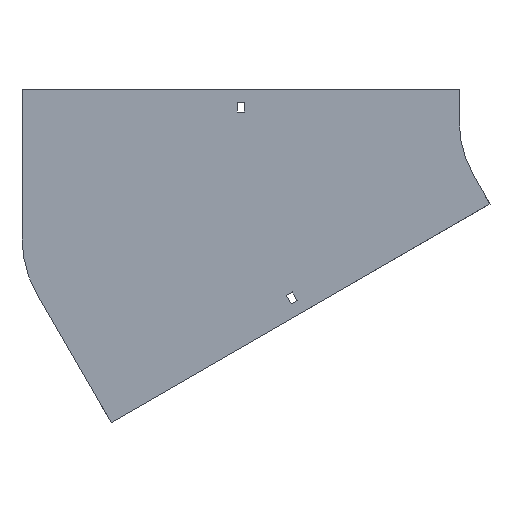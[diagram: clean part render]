
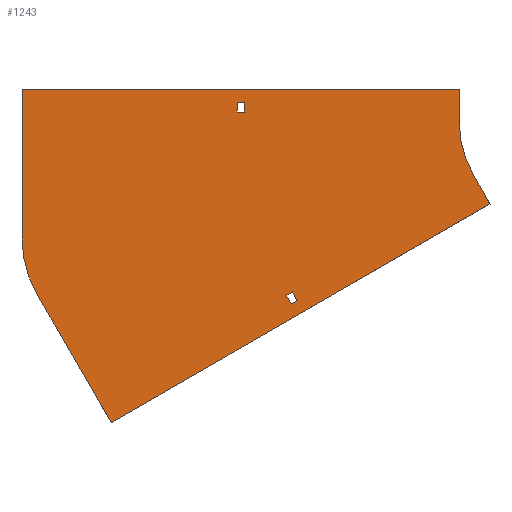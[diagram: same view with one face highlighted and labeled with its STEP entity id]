
A CAD part, front view. The second image highlights one B-rep face of the part: STEP entity #1243.
In plain terms, the highlighted planar face has unit normal (0, -1, 0).
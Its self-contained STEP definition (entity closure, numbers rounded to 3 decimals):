
#7 = EDGE_CURVE ( 'NONE', #804, #976, #1746, .T. ) ;
#8 = LINE ( 'NONE', #761, #819 ) ;
#17 = CARTESIAN_POINT ( 'NONE',  ( -504., 0., 30. ) ) ;
#25 = VECTOR ( 'NONE', #1156, 1000. ) ;
#42 = ORIENTED_EDGE ( 'NONE', *, *, #1031, .F. ) ;
#50 = VECTOR ( 'NONE', #164, 1000. ) ;
#54 = LINE ( 'NONE', #1392, #1465 ) ;
#101 = CARTESIAN_POINT ( 'NONE',  ( -100., 0., 30. ) ) ;
#108 = LINE ( 'NONE', #101, #468 ) ;
#143 = LINE ( 'NONE', #753, #1159 ) ;
#152 = CARTESIAN_POINT ( 'NONE',  ( -504., 0., -108.251 ) ) ;
#156 = DIRECTION ( 'NONE',  ( 0., -1., 0. ) ) ;
#158 = AXIS2_PLACEMENT_3D ( 'NONE', #909, #156, #612 ) ;
#160 = VECTOR ( 'NONE', #360, 1000. ) ;
#164 = DIRECTION ( 'NONE',  ( 0., 0., 1. ) ) ;
#170 = LINE ( 'NONE', #807, #288 ) ;
#191 = ORIENTED_EDGE ( 'NONE', *, *, #608, .F. ) ;
#192 = CARTESIAN_POINT ( 'NONE',  ( -86.603, 0., -50. ) ) ;
#204 = VERTEX_POINT ( 'NONE', #1201 ) ;
#206 = PLANE ( 'NONE',  #208 ) ;
#208 = AXIS2_PLACEMENT_3D ( 'NONE', #1259, #1244, #1102 ) ;
#213 = CARTESIAN_POINT ( 'NONE',  ( -255.354, 0., -168.213 ) ) ;
#231 = EDGE_CURVE ( 'NONE', #1014, #204, #8, .T. ) ;
#236 = CARTESIAN_POINT ( 'NONE',  ( -71.603, 0., -75.981 ) ) ;
#243 = ORIENTED_EDGE ( 'NONE', *, *, #1441, .T. ) ;
#267 = ORIENTED_EDGE ( 'NONE', *, *, #1149, .T. ) ;
#278 = CIRCLE ( 'NONE', #560, 100. ) ;
#288 = VECTOR ( 'NONE', #1073, 1000. ) ;
#290 = EDGE_CURVE ( 'NONE', #204, #1705, #170, .T. ) ;
#308 = LINE ( 'NONE', #152, #50 ) ;
#310 = VERTEX_POINT ( 'NONE', #1660 ) ;
#318 = CARTESIAN_POINT ( 'NONE',  ( -254.225, 0., -157.169 ) ) ;
#327 = DIRECTION ( 'NONE',  ( 1., 0., 0. ) ) ;
#341 = CARTESIAN_POINT ( 'NONE',  ( -298.75, 0., 9. ) ) ;
#345 = DIRECTION ( 'NONE',  ( -0.5, 0., 0.866 ) ) ;
#357 = CARTESIAN_POINT ( 'NONE',  ( -305.25, 0., 18. ) ) ;
#360 = DIRECTION ( 'NONE',  ( -0.5, 0., 0.866 ) ) ;
#371 = FACE_BOUND ( 'NONE', #1483, .T. ) ;
#386 = CARTESIAN_POINT ( 'NONE',  ( -100., 0., 30. ) ) ;
#390 = CARTESIAN_POINT ( 'NONE',  ( -504., 0., -108.251 ) ) ;
#461 = CARTESIAN_POINT ( 'NONE',  ( -305.25, 0., 18. ) ) ;
#468 = VECTOR ( 'NONE', #1296, 1000. ) ;
#492 = DIRECTION ( 'NONE',  ( 0.5, 0., -0.866 ) ) ;
#495 = ORIENTED_EDGE ( 'NONE', *, *, #576, .F. ) ;
#507 = CARTESIAN_POINT ( 'NONE',  ( -254.225, 0., -157.169 ) ) ;
#513 = VERTEX_POINT ( 'NONE', #1505 ) ;
#518 = DIRECTION ( 'NONE',  ( 0., 0., -1. ) ) ;
#520 = VECTOR ( 'NONE', #518, 1000. ) ;
#550 = ORIENTED_EDGE ( 'NONE', *, *, #1265, .T. ) ;
#556 = ORIENTED_EDGE ( 'NONE', *, *, #231, .F. ) ;
#560 = AXIS2_PLACEMENT_3D ( 'NONE', #1752, #877, #1305 ) ;
#576 = EDGE_CURVE ( 'NONE', #1706, #1157, #979, .T. ) ;
#586 = DIRECTION ( 'NONE',  ( -0.866, 0., -0.5 ) ) ;
#600 = ORIENTED_EDGE ( 'NONE', *, *, #7, .T. ) ;
#608 = EDGE_CURVE ( 'NONE', #873, #1643, #1659, .T. ) ;
#612 = DIRECTION ( 'NONE',  ( 0., 0., -1. ) ) ;
#651 = VECTOR ( 'NONE', #706, 1000. ) ;
#656 = LINE ( 'NONE', #357, #1721 ) ;
#700 = ORIENTED_EDGE ( 'NONE', *, *, #1421, .F. ) ;
#706 = DIRECTION ( 'NONE',  ( -1., 0., 0. ) ) ;
#753 = CARTESIAN_POINT ( 'NONE',  ( -255.354, 0., -168.213 ) ) ;
#756 = EDGE_CURVE ( 'NONE', #310, #1014, #1378, .T. ) ;
#761 = CARTESIAN_POINT ( 'NONE',  ( -259.854, 0., -160.419 ) ) ;
#804 = VERTEX_POINT ( 'NONE', #885 ) ;
#807 = CARTESIAN_POINT ( 'NONE',  ( -259.854, 0., -160.419 ) ) ;
#808 = EDGE_CURVE ( 'NONE', #1643, #1706, #108, .T. ) ;
#818 = FACE_BOUND ( 'NONE', #994, .T. ) ;
#819 = VECTOR ( 'NONE', #586, 1000. ) ;
#837 = LINE ( 'NONE', #236, #1652 ) ;
#873 = VERTEX_POINT ( 'NONE', #1622 ) ;
#877 = DIRECTION ( 'NONE',  ( 0., 1., 0. ) ) ;
#885 = CARTESIAN_POINT ( 'NONE',  ( -305.25, 0., 9. ) ) ;
#894 = ORIENTED_EDGE ( 'NONE', *, *, #756, .F. ) ;
#901 = VERTEX_POINT ( 'NONE', #1772 ) ;
#909 = CARTESIAN_POINT ( 'NONE',  ( 0., 0., 0. ) ) ;
#926 = ORIENTED_EDGE ( 'NONE', *, *, #1200, .F. ) ;
#930 = DIRECTION ( 'NONE',  ( 1., 0., 0. ) ) ;
#976 = VERTEX_POINT ( 'NONE', #461 ) ;
#979 = CIRCLE ( 'NONE', #158, 100. ) ;
#983 = ORIENTED_EDGE ( 'NONE', *, *, #1922, .F. ) ;
#994 = EDGE_LOOP ( 'NONE', ( #600, #267, #550, #243 ) ) ;
#1014 = VERTEX_POINT ( 'NONE', #318 ) ;
#1031 = EDGE_CURVE ( 'NONE', #1397, #873, #308, .T. ) ;
#1044 = EDGE_CURVE ( 'NONE', #1705, #310, #143, .T. ) ;
#1063 = EDGE_CURVE ( 'NONE', #1157, #1801, #54, .T. ) ;
#1073 = DIRECTION ( 'NONE',  ( 0.5, 0., -0.866 ) ) ;
#1077 = CARTESIAN_POINT ( 'NONE',  ( -490.603, 0., -158.251 ) ) ;
#1094 = EDGE_LOOP ( 'NONE', ( #191, #42, #700, #983, #926, #1811, #495, #1478 ) ) ;
#1102 = DIRECTION ( 'NONE',  ( 0., 0., -1. ) ) ;
#1114 = LINE ( 'NONE', #341, #520 ) ;
#1132 = ORIENTED_EDGE ( 'NONE', *, *, #290, .F. ) ;
#1149 = EDGE_CURVE ( 'NONE', #976, #901, #656, .T. ) ;
#1156 = DIRECTION ( 'NONE',  ( 0., 0., 1. ) ) ;
#1157 = VERTEX_POINT ( 'NONE', #192 ) ;
#1159 = VECTOR ( 'NONE', #1664, 1000. ) ;
#1200 = EDGE_CURVE ( 'NONE', #1801, #513, #837, .T. ) ;
#1201 = CARTESIAN_POINT ( 'NONE',  ( -259.854, 0., -160.419 ) ) ;
#1205 = LINE ( 'NONE', #1913, #651 ) ;
#1210 = LINE ( 'NONE', #1682, #1795 ) ;
#1235 = FACE_OUTER_BOUND ( 'NONE', #1094, .T. ) ;
#1243 = ADVANCED_FACE ( 'NONE', ( #818, #1235, #371 ), #206, .T. ) ;
#1244 = DIRECTION ( 'NONE',  ( 0., -1., 0. ) ) ;
#1259 = CARTESIAN_POINT ( 'NONE',  ( 0., 0., 0. ) ) ;
#1265 = EDGE_CURVE ( 'NONE', #901, #1714, #1114, .T. ) ;
#1296 = DIRECTION ( 'NONE',  ( 0., 0., -1. ) ) ;
#1305 = DIRECTION ( 'NONE',  ( 0., 0., 1. ) ) ;
#1378 = LINE ( 'NONE', #507, #160 ) ;
#1392 = CARTESIAN_POINT ( 'NONE',  ( -86.603, 0., -50. ) ) ;
#1397 = VERTEX_POINT ( 'NONE', #390 ) ;
#1421 = EDGE_CURVE ( 'NONE', #1499, #1397, #278, .T. ) ;
#1424 = DIRECTION ( 'NONE',  ( -0.866, 0., -0.5 ) ) ;
#1441 = EDGE_CURVE ( 'NONE', #1714, #804, #1205, .T. ) ;
#1465 = VECTOR ( 'NONE', #492, 1000. ) ;
#1478 = ORIENTED_EDGE ( 'NONE', *, *, #808, .F. ) ;
#1483 = EDGE_LOOP ( 'NONE', ( #1796, #1132, #556, #894 ) ) ;
#1499 = VERTEX_POINT ( 'NONE', #1077 ) ;
#1505 = CARTESIAN_POINT ( 'NONE',  ( -421.477, 0., -277.981 ) ) ;
#1563 = CARTESIAN_POINT ( 'NONE',  ( -100., 0., 0. ) ) ;
#1594 = CARTESIAN_POINT ( 'NONE',  ( -305.25, 0., 9. ) ) ;
#1622 = CARTESIAN_POINT ( 'NONE',  ( -504., 0., 30. ) ) ;
#1643 = VERTEX_POINT ( 'NONE', #386 ) ;
#1652 = VECTOR ( 'NONE', #1424, 1000. ) ;
#1659 = LINE ( 'NONE', #17, #1763 ) ;
#1660 = CARTESIAN_POINT ( 'NONE',  ( -249.725, 0., -164.963 ) ) ;
#1664 = DIRECTION ( 'NONE',  ( 0.866, 0., 0.5 ) ) ;
#1682 = CARTESIAN_POINT ( 'NONE',  ( -421.477, 0., -277.981 ) ) ;
#1705 = VERTEX_POINT ( 'NONE', #213 ) ;
#1706 = VERTEX_POINT ( 'NONE', #1563 ) ;
#1708 = CARTESIAN_POINT ( 'NONE',  ( -298.75, 0., 9. ) ) ;
#1714 = VERTEX_POINT ( 'NONE', #1708 ) ;
#1721 = VECTOR ( 'NONE', #327, 1000. ) ;
#1746 = LINE ( 'NONE', #1594, #25 ) ;
#1752 = CARTESIAN_POINT ( 'NONE',  ( -404., 0., -108.251 ) ) ;
#1763 = VECTOR ( 'NONE', #930, 1000. ) ;
#1769 = CARTESIAN_POINT ( 'NONE',  ( -71.603, 0., -75.981 ) ) ;
#1772 = CARTESIAN_POINT ( 'NONE',  ( -298.75, 0., 18. ) ) ;
#1795 = VECTOR ( 'NONE', #345, 1000. ) ;
#1796 = ORIENTED_EDGE ( 'NONE', *, *, #1044, .F. ) ;
#1801 = VERTEX_POINT ( 'NONE', #1769 ) ;
#1811 = ORIENTED_EDGE ( 'NONE', *, *, #1063, .F. ) ;
#1913 = CARTESIAN_POINT ( 'NONE',  ( -305.25, 0., 9. ) ) ;
#1922 = EDGE_CURVE ( 'NONE', #513, #1499, #1210, .T. ) ;
